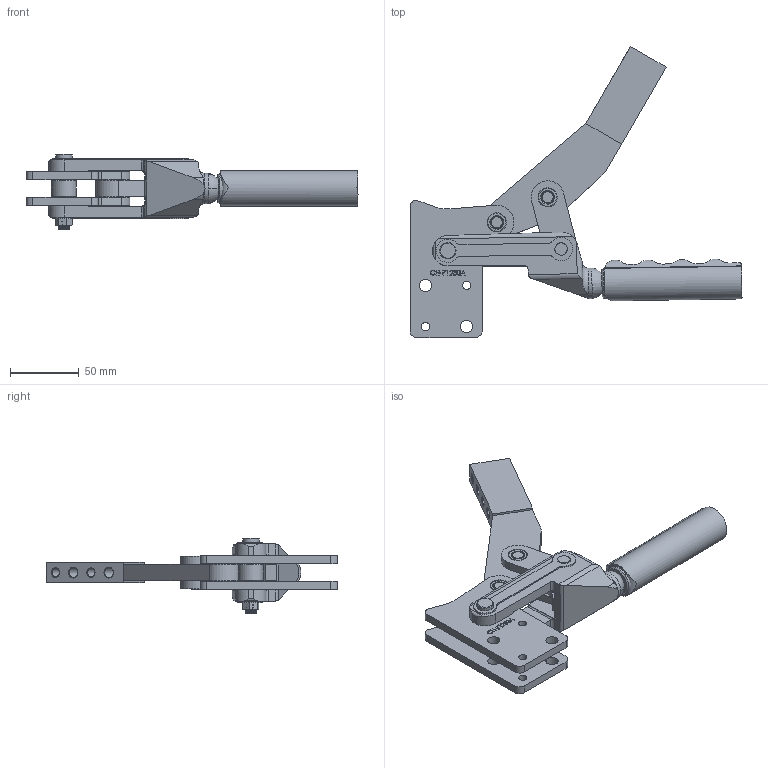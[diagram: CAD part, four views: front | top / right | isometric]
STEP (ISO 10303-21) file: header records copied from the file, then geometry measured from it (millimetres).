
FILE_DESCRIPTION(/* description */ ('STEP AP203'),/* implementation_level */ '2;1');
FILE_NAME(/* name */ 'E:\CAD_CLAMPS\Heavy duty weldables\CH-71230A_DODAC\CH-71230A_OTWARTY.stp',/* time_stamp */ '2019-03-11T14:21:05+01:00',/* author */ ('Admin'),/* organization */ ('Î¢ÈíÖÐ¹ú'),/* preprocessor_version */ 'ST-DEVELOPER v17.2',/* originating_system */ 'Autodesk Inventor 2019',/* authorisation */ '');
FILE_SCHEMA (('AUTOMOTIVE_DESIGN { 1 0 10303 214 3 1 1 }'));
Length unit declared in the file: millimetre
Products named in the file (14): CH-71230A_OTWARTY; Ñ¹°Ñ_Ä¬ÈÏ; Á¬¸Ë_Ä¬ÈÏ; ¸ôÌ×_Ä¬ÈÏ; Ì×_Ä¬ÈÏ; ¸´¼þ Ìå_Ä¬ÈÏ; ÂÝÄ¸_Ä¬ÈÏ; ÂÝ¸Ë_Ä¬ÈÏ; ÊÖ±ú_Ä¬ÈÏ; µ×·´_Ä¬ÈÏ; µ×Õý_Ä¬ÈÏ; ³¤_Ä¬ÈÏ; ¶Ì_Ä¬ÈÏ; ÏâÌ×1_Ä¬ÈÏ
Assembly tree (22 placements, depth 2):
  CH-71230A_OTWARTY
    ÏâÌ×1_Ä¬ÈÏ  x8
    ¶Ì_Ä¬ÈÏ  x2
    Ñ¹°Ñ_Ä¬ÈÏ
    Á¬¸Ë_Ä¬ÈÏ  x2
    ¸ôÌ×_Ä¬ÈÏ
    Ì×_Ä¬ÈÏ
    ¸´¼þ Ìå_Ä¬ÈÏ
    ÂÝÄ¸_Ä¬ÈÏ
    ÂÝ¸Ë_Ä¬ÈÏ
    ÊÖ±ú_Ä¬ÈÏ
    µ×·´_Ä¬ÈÏ
    µ×Õý_Ä¬ÈÏ
    ³¤_Ä¬ÈÏ
Bounding box: 242.19 x 212.36 x 55 mm (x, y, z)
Volume: 287068.6 mm3; surface area: 110616.6 mm2
Topology: 22 solids, 22 shells, 618 faces, 1765 edges, 1217 vertices
Faces by surface type: plane 273, cylinder 177, bspline 87, cone 77, sphere 2, torus 2
Full cylindrical faces by diameter (mm): 2 x1, 5.593 x1, 6 x6, 6.6 x1, 7 x2, 8 x13, 9 x23, 9.5 x1, 10 x2, 12 x1, 14 x8, 14.1 x8, 18 x1, 22 x1
Entity records: 28123 total; most frequent: CARTESIAN_POINT 13576, ORIENTED_EDGE 3126, DIRECTION 2626, EDGE_CURVE 1563, VERTEX_POINT 1067, AXIS2_PLACEMENT_3D 893, LINE 840, VECTOR 840
